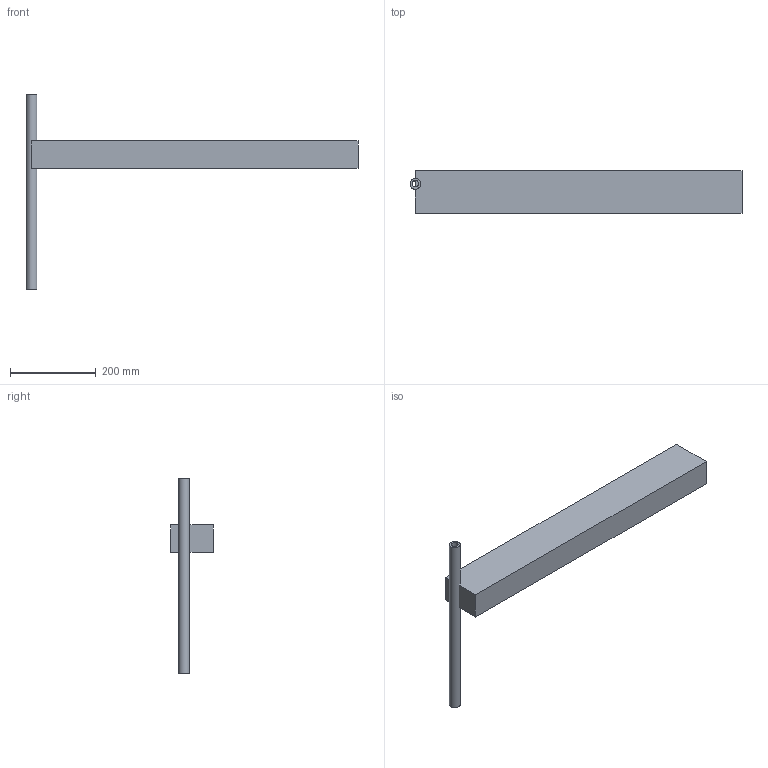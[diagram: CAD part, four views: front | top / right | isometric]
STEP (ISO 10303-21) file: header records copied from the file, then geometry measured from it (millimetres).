
FILE_DESCRIPTION(/* description */ (''),/* implementation_level */ '2;1');
FILE_NAME(/* name */ 'C:\cetinney\Research\Fac&Instr\RotorTestStands\GDL_LargeWhirlTower\JOBYBladeShape\DesignFiles\Tinney_eVTOL_SharedFiles_2024\TinneyARLUT_eVTOLBladeForSharing_2024.step',/* time_stamp */ '2024-01-30T09:39:32-06:00',/* author */ ('ctinney'),/* organization */ (''),/* preprocessor_version */ 'ST-DEVELOPER v19',/* originating_system */ 'AutoCAD Mechanical',/* authorisation */ '');
FILE_SCHEMA (('AUTOMOTIVE_DESIGN { 1 0 10303 214 3 1 1 }'));
Length unit declared in the file: inch
Products named in the file (1): Product
Bounding box: 774.7 x 98.42 x 457.2 mm (x, y, z)
Volume: 5142505.5 mm3; surface area: 389360.2 mm2
Topology: 4 solids, 4 shells, 58 faces, 135 edges, 94 vertices
Faces by surface type: plane 23, cylinder 22, bspline 13
Full cylindrical faces by diameter (mm): 2.499 x5, 3.454 x2, 4.366 x2, 7.366 x2, 10.716 x1, 15.24 x1, 15.875 x1, 15.926 x1, 25.4 x1
Entity records: 15928 total; most frequent: CARTESIAN_POINT 14566, ORIENTED_EDGE 260, DIRECTION 244, EDGE_CURVE 130, AXIS2_PLACEMENT_3D 95, VERTEX_POINT 85, EDGE_LOOP 81, FACE_OUTER_BOUND 58
